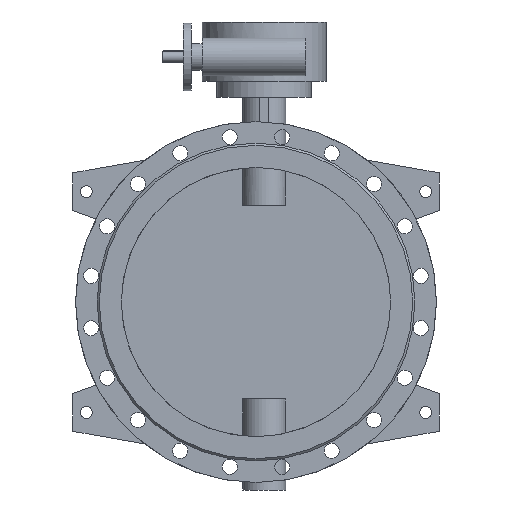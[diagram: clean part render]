
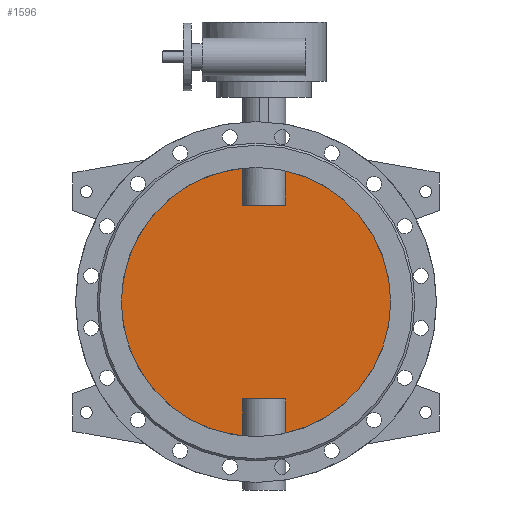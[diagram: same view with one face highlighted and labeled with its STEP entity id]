
A CAD part, front view. The second image highlights one B-rep face of the part: STEP entity #1596.
In plain terms, the highlighted planar face has unit normal (0, -1, 0).
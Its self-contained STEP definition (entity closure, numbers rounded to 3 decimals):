
#1596=ADVANCED_FACE('',(#3324),#3326,.F.);
#3324=FACE_BOUND('',#3325,.T.);
#3325=EDGE_LOOP('',(#4186,#4187,#4188,#4189,#4190,#4191,#4192,#4193));
#3326=PLANE('',#3327);
#3327=AXIS2_PLACEMENT_3D('',#3328,#3329,#3330);
#3328=CARTESIAN_POINT('',(0.,-5.,0.));
#3329=DIRECTION('',(0.,1.,0.));
#3330=DIRECTION('',(1.,0.,0.));
#4186=ORIENTED_EDGE('',*,*,#4617,.T.);
#4187=ORIENTED_EDGE('',*,*,#4623,.T.);
#4188=ORIENTED_EDGE('',*,*,#4624,.T.);
#4189=ORIENTED_EDGE('',*,*,#4625,.T.);
#4190=ORIENTED_EDGE('',*,*,#4619,.T.);
#4191=ORIENTED_EDGE('',*,*,#4626,.T.);
#4192=ORIENTED_EDGE('',*,*,#4627,.T.);
#4193=ORIENTED_EDGE('',*,*,#4628,.T.);
#4617=EDGE_CURVE('',#5321,#5322,#5323,.F.);
#4619=EDGE_CURVE('',#5326,#5324,#5327,.F.);
#4623=EDGE_CURVE('',#5322,#5333,#5334,.T.);
#4624=EDGE_CURVE('',#5333,#5335,#5336,.F.);
#4625=EDGE_CURVE('',#5335,#5326,#5337,.F.);
#4626=EDGE_CURVE('',#5324,#5338,#5339,.F.);
#4627=EDGE_CURVE('',#5338,#5340,#5341,.F.);
#4628=EDGE_CURVE('',#5340,#5321,#5342,.T.);
#5321=VERTEX_POINT('',#7883);
#5322=VERTEX_POINT('',#7884);
#5323=CIRCLE('',#7885,250.);
#5324=VERTEX_POINT('',#7889);
#5326=VERTEX_POINT('',#7979);
#5327=CIRCLE('',#7980,250.);
#5333=VERTEX_POINT('',#8099);
#5334=LINE('',#8100,#8101);
#5335=VERTEX_POINT('',#8103);
#5336=LINE('',#8104,#8105);
#5337=LINE('',#8107,#8108);
#5338=VERTEX_POINT('',#8110);
#5339=LINE('',#8111,#8112);
#5340=VERTEX_POINT('',#8114);
#5341=LINE('',#8115,#8116);
#5342=LINE('',#8118,#8119);
#7883=CARTESIAN_POINT('',(54.686,-5.,-243.946));
#7884=CARTESIAN_POINT('',(54.686,-5.,243.946));
#7885=AXIS2_PLACEMENT_3D('',#7886,#7887,#7888);
#7886=CARTESIAN_POINT('',(0.,-5.,0.));
#7887=DIRECTION('',(0.,1.,0.));
#7888=DIRECTION('',(0.219,0.,0.976));
#7889=CARTESIAN_POINT('',(-24.686,-5.,-248.778));
#7979=CARTESIAN_POINT('',(-24.686,-5.,248.778));
#7980=AXIS2_PLACEMENT_3D('',#7981,#7982,#7983);
#7981=CARTESIAN_POINT('',(0.,-5.,0.));
#7982=DIRECTION('',(0.,1.,0.));
#7983=DIRECTION('',(-0.099,0.,-0.995));
#8099=CARTESIAN_POINT('',(54.686,-5.,180.));
#8100=CARTESIAN_POINT('',(54.686,-5.,243.946));
#8101=VECTOR('',#8102,1.);
#8102=DIRECTION('',(0.,0.,-1.));
#8103=CARTESIAN_POINT('',(-24.686,-5.,180.));
#8104=CARTESIAN_POINT('',(-24.686,-5.,180.));
#8105=VECTOR('',#8106,1.);
#8106=DIRECTION('',(1.,0.,0.));
#8107=CARTESIAN_POINT('',(-24.686,-5.,248.778));
#8108=VECTOR('',#8109,1.);
#8109=DIRECTION('',(0.,0.,-1.));
#8110=CARTESIAN_POINT('',(-24.686,-5.,-180.));
#8111=CARTESIAN_POINT('',(-24.686,-5.,-180.));
#8112=VECTOR('',#8113,1.);
#8113=DIRECTION('',(0.,0.,-1.));
#8114=CARTESIAN_POINT('',(54.686,-5.,-180.));
#8115=CARTESIAN_POINT('',(54.686,-5.,-180.));
#8116=VECTOR('',#8117,1.);
#8117=DIRECTION('',(-1.,0.,0.));
#8118=CARTESIAN_POINT('',(54.686,-5.,-180.));
#8119=VECTOR('',#8120,1.);
#8120=DIRECTION('',(0.,0.,-1.));
